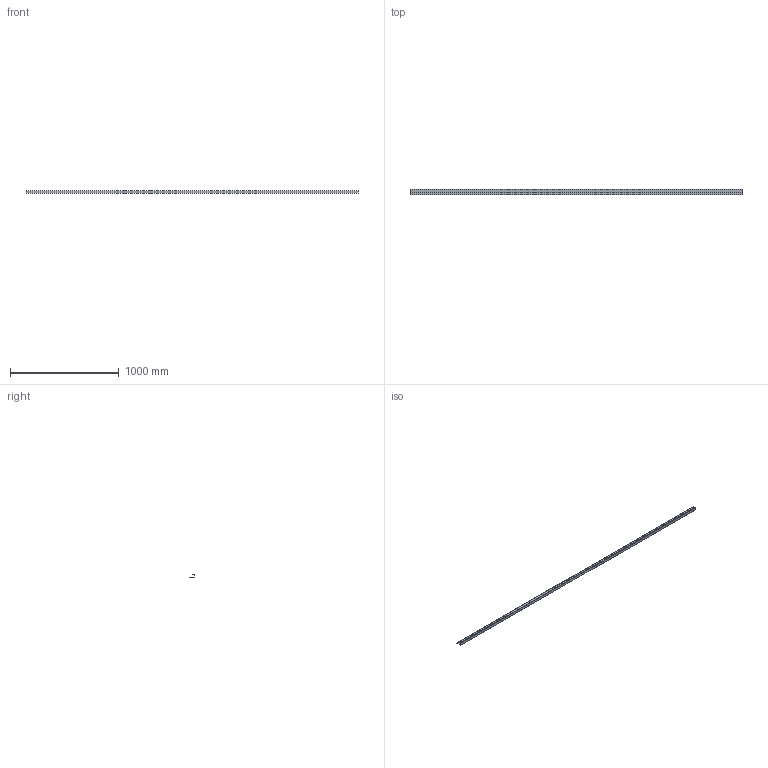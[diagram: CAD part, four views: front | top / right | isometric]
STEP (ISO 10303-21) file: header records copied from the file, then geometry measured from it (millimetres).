
FILE_DESCRIPTION(/* description */ (''),/* implementation_level */ '2;1');
FILE_NAME(/* name */ 'C:\Users\Utilisateur\Mac Metal\Site de communication - Documents\Ingénierie\Développement de produits\Board and Batten\Dessins\Moulures\M01H\M01H.stp',/* time_stamp */ '2022-06-29T17:32:39-04:00',/* author */ ('Utilisateur'),/* organization */ (''),/* preprocessor_version */ 'ST-DEVELOPER v18.1',/* originating_system */ 'Autodesk Inventor 2021',/* authorisation */ '');
FILE_SCHEMA (('AUTOMOTIVE_DESIGN { 1 0 10303 214 3 1 1 }'));
Length unit declared in the file: inch
Products named in the file (1): J-trim (facade de 1po)
Bounding box: 3048 x 50.8 x 24.77 mm (x, y, z)
Volume: 179234.1 mm3; surface area: 708860.3 mm2
Topology: 1 solids, 1 shells, 17 faces, 45 edges, 30 vertices
Faces by surface type: plane 12, cylinder 5
Entity records: 572 total; most frequent: CARTESIAN_POINT 93, DIRECTION 91, ORIENTED_EDGE 90, EDGE_CURVE 45, LINE 35, VECTOR 35, VERTEX_POINT 30, AXIS2_PLACEMENT_3D 28
